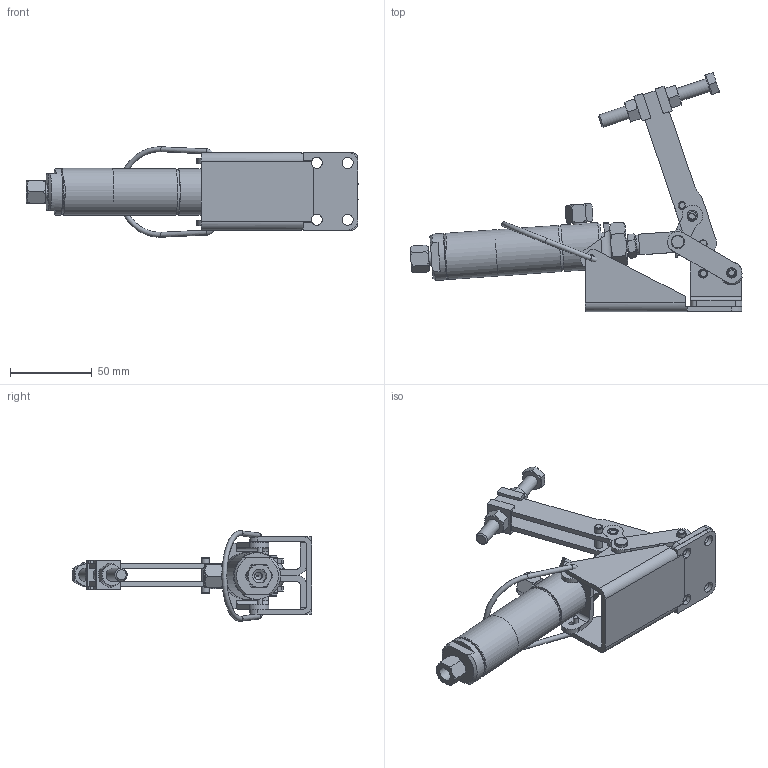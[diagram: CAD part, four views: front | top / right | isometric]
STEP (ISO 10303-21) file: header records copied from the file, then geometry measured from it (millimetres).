
FILE_DESCRIPTION(/* description */ (''),/* implementation_level */ '2;1');
FILE_NAME(/* name */ 'C:\Users\Nick\Desktop\AO-101\3D\ao-101 Open.step',/* time_stamp */ '2016-02-19T09:48:04-05:00',/* author */ ('Nick'),/* organization */ (''),/* preprocessor_version */ 'ST-DEVELOPER v16.1',/* originating_system */ 'AutoCAD Mechanical',/* authorisation */ '');
FILE_SCHEMA (('AUTOMOTIVE_DESIGN { 1 0 10303 214 3 1 1 }'));
Length unit declared in the file: inch
Products named in the file (2): 94805A231; Product
Assembly tree (1 placements, depth 2):
  Product
    94805A231
Bounding box: 203.69 x 146.77 x 55.47 mm (x, y, z)
Volume: 119051 mm3; surface area: 83126.7 mm2
Topology: 31 solids, 31 shells, 600 faces, 1433 edges, 912 vertices
Faces by surface type: plane 250, cylinder 170, cone 112, torus 49, bspline 13, sphere 6
Full cylindrical faces by diameter (mm): 0.94 x2, 2.381 x2, 3.048 x4, 3.175 x4, 4.674 x6, 4.75 x1, 4.762 x3, 4.775 x6, 4.826 x4, 5.537 x1, 6.299 x3, 6.35 x6, 6.401 x2, 6.426 x4, 6.452 x4, 6.553 x1, 6.756 x2, 6.807 x4, 7.938 x2, 7.95 x4, 8.128 x1, 8.331 x2, 8.56 x4, 11.76 x1, 12.7 x1, 14.196 x1, 15.85 x1, 15.875 x2, 26.987 x2, 28.397 x1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
Entity records: 19849 total; most frequent: CARTESIAN_POINT 6659, DIRECTION 2729, ORIENTED_EDGE 2576, EDGE_CURVE 1288, AXIS2_PLACEMENT_3D 1142, VERTEX_POINT 888, EDGE_LOOP 832, FACE_OUTER_BOUND 600
